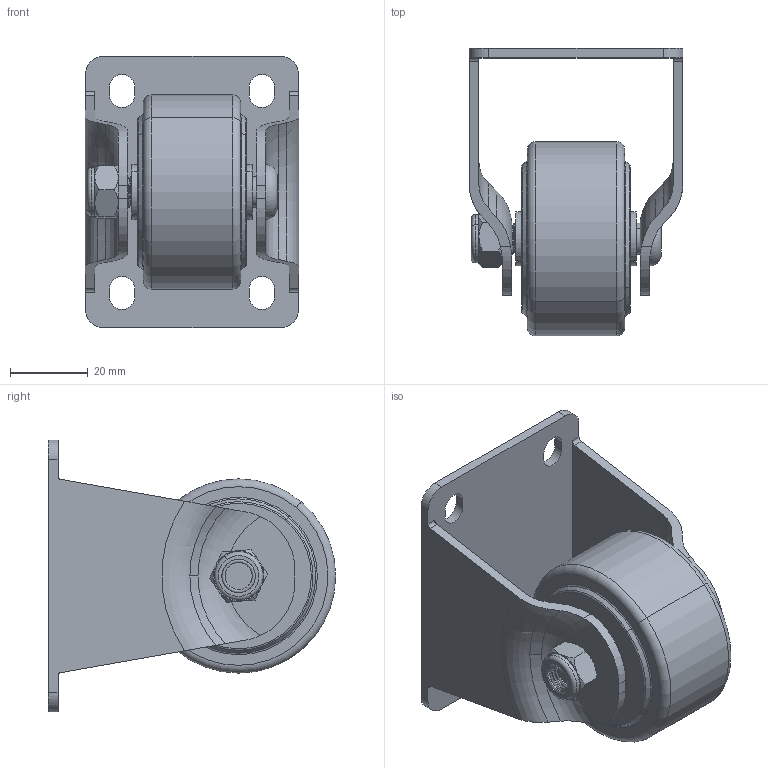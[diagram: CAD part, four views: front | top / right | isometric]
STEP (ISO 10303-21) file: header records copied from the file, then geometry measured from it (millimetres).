
FILE_DESCRIPTION (( 'STEP AP214' ), '1' );
FILE_NAME ('LRU50-F.step', '2023-12-04T19:31:44', ( '' ), ( '' ), 'SwSTEP 2.0', 'SolidWorks 2022', '' );
FILE_SCHEMA (( 'AUTOMOTIVE_DESIGN' ));
Length unit declared in the file: millimetre
Products named in the file (5): LRU50-F; LRU50-F Frame; M8Nyloc; LRU 50MM WHEEL; WL bolt 50mm-8mm dia
Assembly tree (4 placements, depth 2):
  LRU50-F
    M8Nyloc
    WL bolt 50mm-8mm dia
    LRU 50MM WHEEL
    LRU50-F Frame
Bounding box: 55 x 74 x 70 mm (x, y, z)
Volume: 75527.9 mm3; surface area: 29322 mm2
Topology: 4 solids, 4 shells, 409 faces, 1099 edges, 725 vertices
Faces by surface type: plane 149, bspline 127, cylinder 83, torus 24, cone 24, sphere 2
Entity records: 22334 total; most frequent: CARTESIAN_POINT 12554, ORIENTED_EDGE 2194, DIRECTION 1461, EDGE_CURVE 1097, VERTEX_POINT 725, LINE 527, VECTOR 527, AXIS2_PLACEMENT_3D 467
